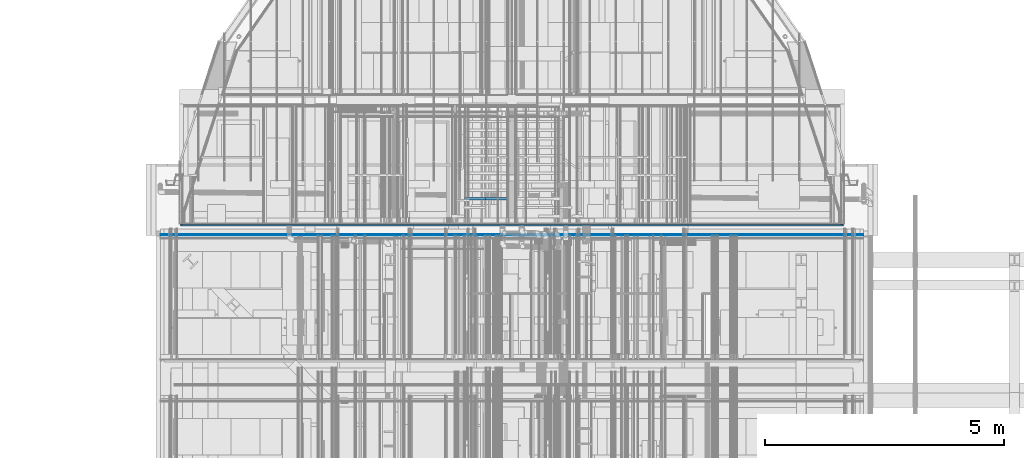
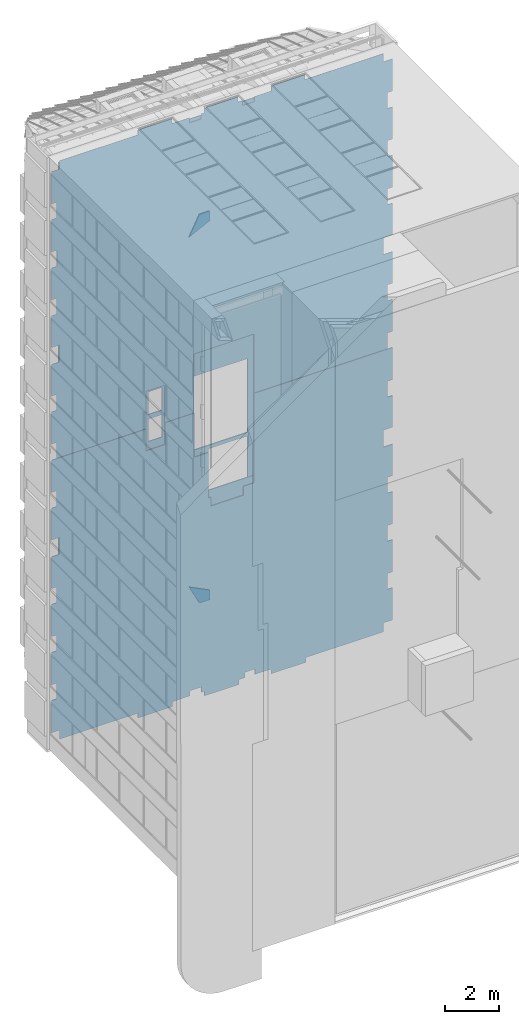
# One storey, part 266 of 583: 8 slabs.
"""IFC2X3 building model written with IfcOpenShell, lengths in metres."""

from ifc_helpers import new_model, entity, si_unit, converted_unit, derived_unit, money_unit, direction, frame, origin_with_axes, place, context, subcontext, project, spatial, faceted_brep, material, type_object, element, save


model = new_model("IFC2X3")

# Units and contexts
model_context = context("Model", 3, precision=1e-05, world=origin_with_axes(), true_north=direction((0.0, 1.0)))
body_context = subcontext(model_context, "Body", "Model", "MODEL_VIEW", scale=1.0)
ifc_project = project(units=[si_unit("LENGTHUNIT", "METRE"), si_unit("AREAUNIT", "SQUARE_METRE"), si_unit("VOLUMEUNIT", "CUBIC_METRE"), si_unit("ABSORBEDDOSEUNIT", "GRAY"), si_unit("AMOUNTOFSUBSTANCEUNIT", "MOLE"), si_unit("DOSEEQUIVALENTUNIT", "SIEVERT"), si_unit("ELECTRICCAPACITANCEUNIT", "FARAD"), si_unit("ELECTRICCHARGEUNIT", "COULOMB"), si_unit("ELECTRICCONDUCTANCEUNIT", "SIEMENS"), si_unit("ELECTRICCURRENTUNIT", "AMPERE"), si_unit("ELECTRICRESISTANCEUNIT", "OHM"), si_unit("ELECTRICVOLTAGEUNIT", "VOLT"), si_unit("ENERGYUNIT", "JOULE"), si_unit("FORCEUNIT", "NEWTON"), si_unit("FREQUENCYUNIT", "HERTZ"), si_unit("ILLUMINANCEUNIT", "LUX"), si_unit("INDUCTANCEUNIT", "HENRY"), si_unit("LUMINOUSFLUXUNIT", "LUMEN"), si_unit("LUMINOUSINTENSITYUNIT", "CANDELA"), si_unit("MAGNETICFLUXDENSITYUNIT", "TESLA"), si_unit("MAGNETICFLUXUNIT", "WEBER"), si_unit("MASSUNIT", "GRAM"), converted_unit("PLANEANGLEUNIT", "degree", entity("IfcReal", 0.0174532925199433), si_unit("PLANEANGLEUNIT", "RADIAN"), dimensions=[0, 0, 0, 0, 0, 0, 0]), si_unit("POWERUNIT", "WATT"), si_unit("PRESSUREUNIT", "PASCAL"), si_unit("RADIOACTIVITYUNIT", "BECQUEREL"), si_unit("SOLIDANGLEUNIT", "STERADIAN"), si_unit("THERMODYNAMICTEMPERATUREUNIT", "KELVIN"), si_unit("TIMEUNIT", "SECOND"), derived_unit("ACCELERATIONUNIT", [(si_unit("LENGTHUNIT", "METRE"), 1), (si_unit("TIMEUNIT", "SECOND"), -2)]), derived_unit("ANGULARVELOCITYUNIT", [(converted_unit("PLANEANGLEUNIT", "degree", entity("IfcReal", 0.0174532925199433), si_unit("PLANEANGLEUNIT", "RADIAN"), dimensions=[0, 0, 0, 0, 0, 0, 0]), 1), (si_unit("TIMEUNIT", "SECOND"), -1)]), derived_unit("CURVATUREUNIT", [(converted_unit("PLANEANGLEUNIT", "degree", entity("IfcReal", 0.0174532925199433), si_unit("PLANEANGLEUNIT", "RADIAN"), dimensions=[0, 0, 0, 0, 0, 0, 0]), 1), (si_unit("LENGTHUNIT", "METRE"), -1)]), derived_unit("DYNAMICVISCOSITYUNIT", [(si_unit("PRESSUREUNIT", "PASCAL"), 1), (si_unit("TIMEUNIT", "SECOND"), 1)]), derived_unit("HEATFLUXDENSITYUNIT", [(si_unit("POWERUNIT", "WATT"), 1), (si_unit("LENGTHUNIT", "METRE"), -2)]), derived_unit("HEATINGVALUEUNIT", [(si_unit("ENERGYUNIT", "JOULE"), 1), (si_unit("MASSUNIT", "GRAM"), -1)]), derived_unit("INTEGERCOUNTRATEUNIT", [(si_unit("TIMEUNIT", "SECOND"), -1)]), derived_unit("IONCONCENTRATIONUNIT", [(si_unit("MASSUNIT", "GRAM"), 1), (si_unit("VOLUMEUNIT", "CUBIC_METRE"), -1)]), derived_unit("ISOTHERMALMOISTURECAPACITYUNIT", [(si_unit("VOLUMEUNIT", "CUBIC_METRE"), 1), (si_unit("MASSUNIT", "GRAM"), -1)]), derived_unit("KINEMATICVISCOSITYUNIT", [(si_unit("AREAUNIT", "SQUARE_METRE"), 1), (si_unit("TIMEUNIT", "SECOND"), -1)]), derived_unit("LINEARFORCEUNIT", [(si_unit("FORCEUNIT", "NEWTON"), 1), (si_unit("LENGTHUNIT", "METRE"), -1)]), derived_unit("LINEARMOMENTUNIT", [(si_unit("FORCEUNIT", "NEWTON"), 1), (si_unit("LENGTHUNIT", "METRE"), -1)]), derived_unit("LINEARSTIFFNESSUNIT", [(si_unit("FORCEUNIT", "NEWTON"), 1), (si_unit("LENGTHUNIT", "METRE"), -1)]), derived_unit("LINEARVELOCITYUNIT", [(si_unit("LENGTHUNIT", "METRE"), 1), (si_unit("TIMEUNIT", "SECOND"), -1)]), derived_unit("LUMINOUSINTENSITYDISTRIBUTIONUNIT", [(si_unit("LUMINOUSINTENSITYUNIT", "CANDELA"), 1), (si_unit("LUMINOUSFLUXUNIT", "LUMEN"), -1)]), derived_unit("MASSDENSITYUNIT", [(si_unit("MASSUNIT", "GRAM"), 1), (si_unit("VOLUMEUNIT", "CUBIC_METRE"), -1)]), derived_unit("MASSFLOWRATEUNIT", [(si_unit("MASSUNIT", "GRAM"), 1), (si_unit("TIMEUNIT", "SECOND"), -1)]), derived_unit("MASSPERLENGTHUNIT", [(si_unit("MASSUNIT", "GRAM"), 1), (si_unit("LENGTHUNIT", "METRE"), -1)]), derived_unit("MODULUSOFELASTICITYUNIT", [(si_unit("FORCEUNIT", "NEWTON"), 1), (si_unit("AREAUNIT", "SQUARE_METRE"), -1)]), derived_unit("MODULUSOFLINEARSUBGRADEREACTIONUNIT", [(si_unit("FORCEUNIT", "NEWTON"), 1), (si_unit("LENGTHUNIT", "METRE"), -2)]), derived_unit("MODULUSOFROTATIONALSUBGRADEREACTIONUNIT", [(si_unit("FORCEUNIT", "NEWTON"), 1), (si_unit("LENGTHUNIT", "METRE"), 1)]), derived_unit("MODULUSOFSUBGRADEREACTIONUNIT", [(si_unit("FORCEUNIT", "NEWTON"), 1), (si_unit("VOLUMEUNIT", "CUBIC_METRE"), -1)]), derived_unit("MOISTUREDIFFUSIVITYUNIT", [(si_unit("VOLUMEUNIT", "CUBIC_METRE"), 1), (si_unit("TIMEUNIT", "SECOND"), -1)]), derived_unit("MOLECULARWEIGHTUNIT", [(si_unit("MASSUNIT", "GRAM"), 1), (si_unit("AMOUNTOFSUBSTANCEUNIT", "MOLE"), -1)]), derived_unit("PLANARFORCEUNIT", [(si_unit("FORCEUNIT", "NEWTON"), 1), (si_unit("LENGTHUNIT", "METRE"), -2)]), derived_unit("ROTATIONALFREQUENCYUNIT", [(si_unit("TIMEUNIT", "SECOND"), -1)]), derived_unit("ROTATIONALMASSUNIT", [(si_unit("MASSUNIT", "GRAM"), 1), (si_unit("LENGTHUNIT", "METRE"), 2)]), derived_unit("ROTATIONALSTIFFNESSUNIT", [(si_unit("FORCEUNIT", "NEWTON"), 1), (si_unit("LENGTHUNIT", "METRE"), 1), (converted_unit("PLANEANGLEUNIT", "degree", entity("IfcReal", 0.0174532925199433), si_unit("PLANEANGLEUNIT", "RADIAN"), dimensions=[0, 0, 0, 0, 0, 0, 0]), -1)]), derived_unit("SECTIONAREAINTEGRALUNIT", [(si_unit("LENGTHUNIT", "METRE"), 5)]), derived_unit("SECTIONMODULUSUNIT", [(si_unit("LENGTHUNIT", "METRE"), 3)]), derived_unit("SHEARMODULUSUNIT", [(si_unit("FORCEUNIT", "NEWTON"), 1), (si_unit("AREAUNIT", "SQUARE_METRE"), -1)]), derived_unit("SOUNDPOWERUNIT", [(si_unit("ENERGYUNIT", "JOULE"), 1), (si_unit("TIMEUNIT", "SECOND"), -1)]), derived_unit("SPECIFICHEATCAPACITYUNIT", [(si_unit("FORCEUNIT", "NEWTON"), 1), (si_unit("MASSUNIT", "GRAM"), -1), (si_unit("THERMODYNAMICTEMPERATUREUNIT", "KELVIN"), -1)]), derived_unit("TEMPERATUREGRADIENTUNIT", [(si_unit("THERMODYNAMICTEMPERATUREUNIT", "KELVIN"), 1), (si_unit("LENGTHUNIT", "METRE"), -1)]), derived_unit("THERMALADMITTANCEUNIT", [(si_unit("POWERUNIT", "WATT"), 1), (si_unit("AREAUNIT", "SQUARE_METRE"), -1), (si_unit("THERMODYNAMICTEMPERATUREUNIT", "KELVIN"), -1)]), derived_unit("THERMALCONDUCTANCEUNIT", [(si_unit("POWERUNIT", "WATT"), 1), (si_unit("LENGTHUNIT", "METRE"), -1), (si_unit("THERMODYNAMICTEMPERATUREUNIT", "KELVIN"), -1)]), derived_unit("THERMALEXPANSIONCOEFFICIENTUNIT", [(si_unit("THERMODYNAMICTEMPERATUREUNIT", "KELVIN"), -1)]), derived_unit("THERMALRESISTANCEUNIT", [(si_unit("AREAUNIT", "SQUARE_METRE"), 1), (si_unit("POWERUNIT", "WATT"), -1)]), derived_unit("THERMALTRANSMITTANCEUNIT", [(si_unit("POWERUNIT", "WATT"), 1), (si_unit("AREAUNIT", "SQUARE_METRE"), -1), (si_unit("THERMODYNAMICTEMPERATUREUNIT", "KELVIN"), -1)]), derived_unit("TORQUEUNIT", [(si_unit("FORCEUNIT", "NEWTON"), 1), (si_unit("LENGTHUNIT", "METRE"), 1)]), derived_unit("VAPORPERMEABILITYUNIT", [(si_unit("MASSUNIT", "GRAM"), 1), (si_unit("TIMEUNIT", "SECOND"), -1)]), derived_unit("VOLUMETRICFLOWRATEUNIT", [(si_unit("VOLUMEUNIT", "CUBIC_METRE"), 1), (si_unit("TIMEUNIT", "SECOND"), -1)]), derived_unit("WARPINGCONSTANTUNIT", [(si_unit("LENGTHUNIT", "METRE"), 6)]), derived_unit("WARPINGMOMENTUNIT", [(si_unit("FORCEUNIT", "NEWTON"), 1), (si_unit("LENGTHUNIT", "METRE"), 2)]), money_unit("GBP")], contexts=[model_context])

# Site, building, storey
site_placement = place(None, origin_with_axes())
site = spatial("IfcSite", under=ifc_project, at=site_placement, Name="Site", CompositionType="ELEMENT")
building_placement = place(site_placement, origin_with_axes())
building = spatial("IfcBuilding", under=site, at=building_placement, Name="Building01", CompositionType="ELEMENT")
storey_placement = place(building_placement, frame((0.0, 0.0, 20.78), z_axis=(0.0, 0.0, 1.0), x_axis=(1.0, 0.0, 0.0)))
storey = spatial("IfcBuildingStorey", under=building, at=storey_placement, Name="RL", CompositionType="ELEMENT", Elevation=20.78)

# Slabs
ifc_material_1 = material(Name="A_BSUK_CeilingSoffitFinishes_Suspended")
slab_type_1 = type_object("IfcSlabType", Name="A-FloorsSlabs A_BSUK_Slabs", PredefinedType="FLOOR")
placement = place(storey_placement, frame((0.0, 0.0, -20.78), z_axis=(0.0, 0.0, 1.0), x_axis=(1.0, 0.0, 0.0)))
element("IfcSlab", 1, at=placement, inside=storey, type_object=slab_type_1, material=ifc_material_1, Name="A-FloorsSlabs A_BSUK_Slabs", ObjectType="CompoundSlabLeaf", context=body_context, shape_type="Brep", body=[
    faceted_brep([(14.402, 14.723, 0.318), (14.402, 14.738, 0.318), (14.402, 14.738, 0.725), (14.402, 14.723, 0.725), (11.055, 14.723, 0.318), (11.055, 14.738, 0.318), (11.055, 14.723, 0.1), (11.055, 14.738, 0.1), (9.56218, 14.723, 0.1), (9.56218, 14.738, 0.1), (9.56218, 14.723, 0.318), (9.56218, 14.738, 0.318), (8.863, 14.723, 0.318), (8.863, 14.738, 0.318), (8.863, 14.723, 0.562178), (8.863, 14.738, 0.562178), (8.43567, 14.723, 0.562178), (8.43567, 14.738, 0.562178), (8.43567, 14.723, 0.318), (8.43567, 14.738, 0.318), (8.185, 14.723, 0.318), (8.185, 14.738, 0.318), (8.185, 14.723, 0.1), (8.185, 14.738, 0.1), (6.69218, 14.723, 0.1), (6.69218, 14.738, 0.1), (6.69218, 14.723, 0.318), (6.69218, 14.738, 0.318), (6.548, 14.723, 0.318), (6.548, 14.738, 0.318), (6.548, 14.723, 0.548), (6.548, 14.738, 0.548), (6.052, 14.723, 0.548), (6.052, 14.738, 0.548), (6.052, 14.723, 0.318), (6.052, 14.738, 0.318), (5.315, 14.723, 0.318), (5.315, 14.738, 0.318), (5.315, 14.723, 0.1), (5.315, 14.738, 0.1), (3.82218, 14.723, 0.1), (3.82218, 14.738, 0.1), (3.82218, 14.723, 0.318), (3.82218, 14.738, 0.318), (0.448, 14.723, 0.318), (0.448, 14.738, 0.318), (0.448, 14.723, 0.725), (0.448, 14.738, 0.725), (0.1, 14.723, 0.725), (0.1, 14.738, 0.725), (0.1, 14.723, 2.195), (0.1, 14.738, 2.195), (0.318, 14.723, 2.195), (0.318, 14.738, 2.195), (0.318, 14.723, 2.915), (0.318, 14.738, 2.915), (0.1, 14.723, 2.915), (0.1, 14.738, 2.915), (0.1, 14.723, 4.385), (0.1, 14.738, 4.385), (0.318, 14.723, 4.385), (0.318, 14.738, 4.385), (0.318, 14.723, 5.105), (0.318, 14.738, 5.105), (0.1, 14.723, 5.105), (0.1, 14.738, 5.105), (0.1, 14.723, 6.575), (0.1, 14.738, 6.575), (0.318, 14.723, 6.575), (0.318, 14.738, 6.575), (0.318, 14.723, 7.295), (0.318, 14.738, 7.295), (0.1, 14.723, 7.295), (0.1, 14.738, 7.295), (0.1, 14.723, 8.742), (0.1, 14.738, 8.742), (0.448, 14.723, 8.742), (0.448, 14.738, 8.742), (0.448, 14.723, 9.508), (0.448, 14.738, 9.508), (0.1, 14.723, 9.508), (0.1, 14.738, 9.508), (0.1, 14.723, 10.955), (0.1, 14.738, 10.955), (0.318, 14.723, 10.955), (0.318, 14.738, 10.955), (0.318, 14.723, 11.675), (0.318, 14.738, 11.675), (0.1, 14.723, 11.675), (0.1, 14.738, 11.675), (0.1, 14.723, 13.145), (0.1, 14.738, 13.145), (4.164428, 14.723, 13.145), (4.164428, 14.738, 13.145), (4.164428, 14.723, 12.15), (4.164428, 14.738, 12.15), (4.98, 14.723, 12.15), (4.98, 14.738, 12.15), (4.98, 14.723, 13.145), (4.98, 14.738, 13.145), (6.25, 14.723, 13.145), (6.25, 14.738, 13.145), (6.25, 14.723, 11.13), (6.25, 14.738, 11.13), (6.85, 14.723, 11.13), (6.85, 14.738, 11.13), (6.85, 14.723, 9.06), (6.85, 14.738, 9.06), (6.968405, 14.723, 9.06), (6.968405, 14.738, 9.06), (6.968405, 14.723, 8.658), (6.968405, 14.738, 8.658), (8.372405, 14.723, 8.658), (8.372405, 14.738, 8.658), (8.372405, 14.723, 9.06), (8.372405, 14.738, 9.06), (8.82, 14.723, 9.06), (8.82, 14.738, 9.06), (8.82, 14.723, 13.145), (8.82, 14.738, 13.145), (14.8, 14.723, 13.145), (14.8, 14.738, 13.145), (14.8, 14.723, 11.675), (14.8, 14.738, 11.675), (14.582, 14.723, 11.675), (14.582, 14.738, 11.675), (14.582, 14.723, 10.955), (14.582, 14.738, 10.955), (14.8, 14.723, 10.955), (14.8, 14.738, 10.955), (14.8, 14.723, 9.508), (14.8, 14.738, 9.508), (14.402, 14.723, 9.508), (14.402, 14.738, 9.508), (14.402, 14.723, 8.742), (14.402, 14.738, 8.742), (14.8, 14.723, 8.742), (14.8, 14.738, 8.742), (14.8, 14.723, 7.295), (14.8, 14.738, 7.295), (14.582, 14.723, 7.295), (14.582, 14.738, 7.295), (14.582, 14.723, 6.574876), (14.582, 14.738, 6.574876), (14.8, 14.723, 6.574876), (14.8, 14.738, 6.574876), (14.8, 14.723, 5.105), (14.8, 14.738, 5.105), (14.582, 14.723, 5.105), (14.582, 14.738, 5.105), (14.582, 14.723, 4.385), (14.582, 14.738, 4.385), (14.8, 14.723, 4.385), (14.8, 14.738, 4.385), (14.8, 14.723, 2.915), (14.8, 14.738, 2.915), (14.582, 14.723, 2.915), (14.582, 14.738, 2.915), (14.582, 14.723, 2.195), (14.582, 14.738, 2.195), (14.8, 14.723, 2.195), (14.8, 14.738, 2.195), (14.8, 14.723, 0.725), (14.8, 14.738, 0.725)], [[[0, 1, 2, 3]], [[4, 5, 1, 0]], [[6, 7, 5, 4]], [[8, 9, 7, 6]], [[10, 11, 9, 8]], [[12, 13, 11, 10]], [[14, 15, 13, 12]], [[16, 17, 15, 14]], [[18, 19, 17, 16]], [[20, 21, 19, 18]], [[22, 23, 21, 20]], [[24, 25, 23, 22]], [[26, 27, 25, 24]], [[28, 29, 27, 26]], [[30, 31, 29, 28]], [[32, 33, 31, 30]], [[34, 35, 33, 32]], [[36, 37, 35, 34]], [[38, 39, 37, 36]], [[40, 41, 39, 38]], [[42, 43, 41, 40]], [[44, 45, 43, 42]], [[46, 47, 45, 44]], [[48, 49, 47, 46]], [[50, 51, 49, 48]], [[52, 53, 51, 50]], [[54, 55, 53, 52]], [[56, 57, 55, 54]], [[58, 59, 57, 56]], [[60, 61, 59, 58]], [[62, 63, 61, 60]], [[64, 65, 63, 62]], [[66, 67, 65, 64]], [[68, 69, 67, 66]], [[70, 71, 69, 68]], [[72, 73, 71, 70]], [[74, 75, 73, 72]], [[76, 77, 75, 74]], [[78, 79, 77, 76]], [[80, 81, 79, 78]], [[82, 83, 81, 80]], [[84, 85, 83, 82]], [[86, 87, 85, 84]], [[88, 89, 87, 86]], [[90, 91, 89, 88]], [[92, 93, 91, 90]], [[94, 95, 93, 92]], [[96, 97, 95, 94]], [[98, 99, 97, 96]], [[100, 101, 99, 98]], [[102, 103, 101, 100]], [[104, 105, 103, 102]], [[106, 107, 105, 104]], [[108, 109, 107, 106]], [[110, 111, 109, 108]], [[112, 113, 111, 110]], [[114, 115, 113, 112]], [[116, 117, 115, 114]], [[118, 119, 117, 116]], [[120, 121, 119, 118]], [[122, 123, 121, 120]], [[124, 125, 123, 122]], [[126, 127, 125, 124]], [[128, 129, 127, 126]], [[130, 131, 129, 128]], [[132, 133, 131, 130]], [[134, 135, 133, 132]], [[136, 137, 135, 134]], [[138, 139, 137, 136]], [[140, 141, 139, 138]], [[142, 143, 141, 140]], [[144, 145, 143, 142]], [[146, 147, 145, 144]], [[148, 149, 147, 146]], [[150, 151, 149, 148]], [[152, 153, 151, 150]], [[154, 155, 153, 152]], [[156, 157, 155, 154]], [[158, 159, 157, 156]], [[160, 161, 159, 158]], [[162, 163, 161, 160]], [[3, 2, 163, 162]], [[1, 5, 7, 9, 11, 13, 15, 17, 19, 21, 23, 25, 27, 29, 31, 33, 35, 37, 39, 41, 43, 45, 47, 49, 51, 53, 55, 57, 59, 61, 63, 65, 67, 69, 71, 73, 75, 77, 79, 81, 83, 85, 87, 89, 91, 93, 95, 97, 99, 101, 103, 105, 107, 109, 111, 113, 115, 117, 119, 121, 123, 125, 127, 129, 131, 133, 135, 137, 139, 141, 143, 145, 147, 149, 151, 153, 155, 157, 159, 161, 163, 2]], [[3, 162, 160, 158, 156, 154, 152, 150, 148, 146, 144, 142, 140, 138, 136, 134, 132, 130, 128, 126, 124, 122, 120, 118, 116, 114, 112, 110, 108, 106, 104, 102, 100, 98, 96, 94, 92, 90, 88, 86, 84, 82, 80, 78, 76, 74, 72, 70, 68, 66, 64, 62, 60, 58, 56, 54, 52, 50, 48, 46, 44, 42, 40, 38, 36, 34, 32, 30, 28, 26, 24, 22, 20, 18, 16, 14, 12, 10, 8, 6, 4, 0]]]),
])
element("IfcSlab", 2, at=placement, inside=storey, type_object=slab_type_1, material=ifc_material_1, Name="A-FloorsSlabs A_BSUK_Slabs", ObjectType="CompoundSlabLeaf", context=body_context, shape_type="Brep", body=[
    faceted_brep([(14.402, 14.738, 26.662), (14.402, 14.753, 26.662), (11.03218, 14.753, 26.662), (11.03218, 14.738, 26.662), (14.402, 14.738, 26.285), (14.402, 14.753, 26.285), (14.8, 14.738, 26.285), (14.8, 14.753, 26.285), (14.8, 14.738, 24.815), (14.8, 14.753, 24.815), (14.582, 14.738, 24.815), (14.582, 14.753, 24.815), (14.582, 14.738, 24.095), (14.582, 14.753, 24.095), (14.8, 14.738, 24.095), (14.8, 14.753, 24.095), (14.8, 14.738, 22.625), (14.8, 14.753, 22.625), (14.582, 14.738, 22.625), (14.582, 14.753, 22.625), (14.582, 14.738, 21.905), (14.582, 14.753, 21.905), (14.8, 14.738, 21.905), (14.8, 14.753, 21.905), (14.8, 14.738, 20.435), (14.8, 14.753, 20.435), (14.582, 14.738, 20.435), (14.582, 14.753, 20.435), (14.582, 14.738, 19.715), (14.582, 14.753, 19.715), (14.8, 14.738, 19.715), (14.8, 14.753, 19.715), (14.8, 14.738, 18.268), (14.8, 14.753, 18.268), (14.402, 14.738, 18.268), (14.402, 14.753, 18.268), (14.402, 14.738, 17.502), (14.402, 14.753, 17.502), (14.8, 14.738, 17.502), (14.8, 14.753, 17.502), (14.8, 14.738, 16.055), (14.8, 14.753, 16.055), (14.582, 14.738, 16.055), (14.582, 14.753, 16.055), (14.582, 14.738, 15.335), (14.582, 14.753, 15.335), (14.8, 14.738, 15.335), (14.8, 14.753, 15.335), (14.8, 14.738, 13.865), (14.8, 14.753, 13.865), (14.582, 14.738, 13.865), (14.582, 14.753, 13.865), (14.582, 14.738, 13.145), (14.582, 14.753, 13.145), (8.82, 14.738, 13.145), (8.82, 14.753, 13.145), (8.82, 14.738, 15.83), (8.82, 14.753, 15.83), (6.25, 14.738, 15.83), (6.25, 14.753, 15.83), (6.25, 14.738, 13.145), (6.25, 14.753, 13.145), (4.98, 14.738, 13.145), (4.98, 14.753, 13.145), (4.98, 14.738, 14.85), (4.98, 14.753, 14.85), (4.164428, 14.738, 14.85), (4.164428, 14.753, 14.85), (4.164428, 14.738, 13.145), (4.164428, 14.753, 13.145), (0.318, 14.738, 13.145), (0.318, 14.753, 13.145), (0.318, 14.738, 13.865), (0.318, 14.753, 13.865), (0.1, 14.738, 13.865), (0.1, 14.753, 13.865), (0.1, 14.738, 15.335), (0.1, 14.753, 15.335), (0.318, 14.738, 15.335), (0.318, 14.753, 15.335), (0.318, 14.738, 16.055), (0.318, 14.753, 16.055), (0.1, 14.738, 16.055), (0.1, 14.753, 16.055), (0.1, 14.738, 17.502), (0.1, 14.753, 17.502), (0.448, 14.738, 17.502), (0.448, 14.753, 17.502), (0.448, 14.738, 18.268), (0.448, 14.753, 18.268), (0.1, 14.738, 18.268), (0.1, 14.753, 18.268), (0.1, 14.738, 19.715), (0.1, 14.753, 19.715), (0.318, 14.738, 19.715), (0.318, 14.753, 19.715), (0.318, 14.738, 20.435), (0.318, 14.753, 20.435), (0.1, 14.738, 20.435), (0.1, 14.753, 20.435), (0.1, 14.738, 21.89), (0.1, 14.753, 21.89), (0.333, 14.738, 21.89), (0.333, 14.753, 21.89), (0.333, 14.738, 22.625), (0.333, 14.753, 22.625), (0.1, 14.738, 22.625), (0.1, 14.753, 22.625), (0.1, 14.738, 24.095), (0.1, 14.753, 24.095), (0.318, 14.738, 24.095), (0.318, 14.753, 24.095), (0.318, 14.738, 24.815), (0.318, 14.753, 24.815), (0.1, 14.738, 24.815), (0.1, 14.753, 24.815), (0.1, 14.738, 26.285), (0.1, 14.753, 26.285), (0.448, 14.738, 26.285), (0.448, 14.753, 26.285), (0.448, 14.738, 26.662), (0.448, 14.753, 26.662), (3.82218, 14.738, 26.662), (3.82218, 14.753, 26.662), (3.82218, 14.738, 26.88), (3.82218, 14.753, 26.88), (5.29218, 14.738, 26.88), (5.29218, 14.753, 26.88), (5.29218, 14.738, 26.662), (5.29218, 14.753, 26.662), (6.052, 14.738, 26.662), (6.052, 14.753, 26.662), (6.052, 14.738, 26.432), (6.052, 14.753, 26.432), (6.548, 14.738, 26.432), (6.548, 14.753, 26.432), (6.548, 14.738, 26.662), (6.548, 14.753, 26.662), (6.682326, 14.738, 26.662), (6.682326, 14.753, 26.662), (6.682326, 14.738, 26.88), (6.682326, 14.753, 26.88), (8.137326, 14.738, 26.88), (8.137326, 14.753, 26.88), (8.137326, 14.738, 26.646178), (8.137326, 14.753, 26.646178), (8.334548, 14.738, 26.646178), (8.334548, 14.753, 26.646178), (8.334548, 14.738, 26.417), (8.334548, 14.753, 26.417), (8.848, 14.738, 26.417), (8.848, 14.753, 26.417), (8.848, 14.738, 26.646178), (8.848, 14.753, 26.646178), (9.57718, 14.738, 26.646178), (9.57718, 14.753, 26.646178), (9.57718, 14.738, 26.88), (9.57718, 14.753, 26.88), (11.03218, 14.738, 26.88), (11.03218, 14.753, 26.88)], [[[0, 1, 2, 3]], [[4, 5, 1, 0]], [[6, 7, 5, 4]], [[8, 9, 7, 6]], [[10, 11, 9, 8]], [[12, 13, 11, 10]], [[14, 15, 13, 12]], [[16, 17, 15, 14]], [[18, 19, 17, 16]], [[20, 21, 19, 18]], [[22, 23, 21, 20]], [[24, 25, 23, 22]], [[26, 27, 25, 24]], [[28, 29, 27, 26]], [[30, 31, 29, 28]], [[32, 33, 31, 30]], [[34, 35, 33, 32]], [[36, 37, 35, 34]], [[38, 39, 37, 36]], [[40, 41, 39, 38]], [[42, 43, 41, 40]], [[44, 45, 43, 42]], [[46, 47, 45, 44]], [[48, 49, 47, 46]], [[50, 51, 49, 48]], [[52, 53, 51, 50]], [[54, 55, 53, 52]], [[56, 57, 55, 54]], [[58, 59, 57, 56]], [[60, 61, 59, 58]], [[62, 63, 61, 60]], [[64, 65, 63, 62]], [[66, 67, 65, 64]], [[68, 69, 67, 66]], [[70, 71, 69, 68]], [[72, 73, 71, 70]], [[74, 75, 73, 72]], [[76, 77, 75, 74]], [[78, 79, 77, 76]], [[80, 81, 79, 78]], [[82, 83, 81, 80]], [[84, 85, 83, 82]], [[86, 87, 85, 84]], [[88, 89, 87, 86]], [[90, 91, 89, 88]], [[92, 93, 91, 90]], [[94, 95, 93, 92]], [[96, 97, 95, 94]], [[98, 99, 97, 96]], [[100, 101, 99, 98]], [[102, 103, 101, 100]], [[104, 105, 103, 102]], [[106, 107, 105, 104]], [[108, 109, 107, 106]], [[110, 111, 109, 108]], [[112, 113, 111, 110]], [[114, 115, 113, 112]], [[116, 117, 115, 114]], [[118, 119, 117, 116]], [[120, 121, 119, 118]], [[122, 123, 121, 120]], [[124, 125, 123, 122]], [[126, 127, 125, 124]], [[128, 129, 127, 126]], [[130, 131, 129, 128]], [[132, 133, 131, 130]], [[134, 135, 133, 132]], [[136, 137, 135, 134]], [[138, 139, 137, 136]], [[140, 141, 139, 138]], [[142, 143, 141, 140]], [[144, 145, 143, 142]], [[146, 147, 145, 144]], [[148, 149, 147, 146]], [[150, 151, 149, 148]], [[152, 153, 151, 150]], [[154, 155, 153, 152]], [[156, 157, 155, 154]], [[158, 159, 157, 156]], [[3, 2, 159, 158]], [[1, 5, 7, 9, 11, 13, 15, 17, 19, 21, 23, 25, 27, 29, 31, 33, 35, 37, 39, 41, 43, 45, 47, 49, 51, 53, 55, 57, 59, 61, 63, 65, 67, 69, 71, 73, 75, 77, 79, 81, 83, 85, 87, 89, 91, 93, 95, 97, 99, 101, 103, 105, 107, 109, 111, 113, 115, 117, 119, 121, 123, 125, 127, 129, 131, 133, 135, 137, 139, 141, 143, 145, 147, 149, 151, 153, 155, 157, 159, 2]], [[3, 158, 156, 154, 152, 150, 148, 146, 144, 142, 140, 138, 136, 134, 132, 130, 128, 126, 124, 122, 120, 118, 116, 114, 112, 110, 108, 106, 104, 102, 100, 98, 96, 94, 92, 90, 88, 86, 84, 82, 80, 78, 76, 74, 72, 70, 68, 66, 64, 62, 60, 58, 56, 54, 52, 50, 48, 46, 44, 42, 40, 38, 36, 34, 32, 30, 28, 26, 24, 22, 20, 18, 16, 14, 12, 10, 8, 6, 4, 0]]]),
])
element("IfcSlab", 3, at=placement, inside=storey, type_object=slab_type_1, material=ifc_material_1, Name="A-FloorsSlabs A_BSUK_Slabs", ObjectType="CompoundSlabLeaf", context=body_context, shape_type="Brep", body=[
    faceted_brep([(14.402, 14.738, 0.318), (14.402, 14.753, 0.318), (14.402, 14.753, 0.725), (14.402, 14.738, 0.725), (11.055, 14.738, 0.318), (11.055, 14.753, 0.318), (11.055, 14.738, 0.1), (11.055, 14.753, 0.1), (9.56218, 14.738, 0.1), (9.56218, 14.753, 0.1), (9.56218, 14.738, 0.318), (9.56218, 14.753, 0.318), (8.863, 14.738, 0.318), (8.863, 14.753, 0.318), (8.863, 14.738, 0.562178), (8.863, 14.753, 0.562178), (8.43567, 14.738, 0.562178), (8.43567, 14.753, 0.562178), (8.43567, 14.738, 0.318), (8.43567, 14.753, 0.318), (8.185, 14.738, 0.318), (8.185, 14.753, 0.318), (8.185, 14.738, 0.1), (8.185, 14.753, 0.1), (6.69218, 14.738, 0.1), (6.69218, 14.753, 0.1), (6.69218, 14.738, 0.318), (6.69218, 14.753, 0.318), (6.548, 14.738, 0.318), (6.548, 14.753, 0.318), (6.548, 14.738, 0.548), (6.548, 14.753, 0.548), (6.052, 14.738, 0.548), (6.052, 14.753, 0.548), (6.052, 14.738, 0.318), (6.052, 14.753, 0.318), (5.315, 14.738, 0.318), (5.315, 14.753, 0.318), (5.315, 14.738, 0.1), (5.315, 14.753, 0.1), (3.82218, 14.738, 0.1), (3.82218, 14.753, 0.1), (3.82218, 14.738, 0.318), (3.82218, 14.753, 0.318), (0.448, 14.738, 0.318), (0.448, 14.753, 0.318), (0.448, 14.738, 0.725), (0.448, 14.753, 0.725), (0.1, 14.738, 0.725), (0.1, 14.753, 0.725), (0.1, 14.738, 2.195), (0.1, 14.753, 2.195), (0.318, 14.738, 2.195), (0.318, 14.753, 2.195), (0.318, 14.738, 2.915), (0.318, 14.753, 2.915), (0.1, 14.738, 2.915), (0.1, 14.753, 2.915), (0.1, 14.738, 4.385), (0.1, 14.753, 4.385), (0.318, 14.738, 4.385), (0.318, 14.753, 4.385), (0.318, 14.738, 5.105), (0.318, 14.753, 5.105), (0.1, 14.738, 5.105), (0.1, 14.753, 5.105), (0.1, 14.738, 6.575), (0.1, 14.753, 6.575), (0.318, 14.738, 6.575), (0.318, 14.753, 6.575), (0.318, 14.738, 7.295), (0.318, 14.753, 7.295), (0.1, 14.738, 7.295), (0.1, 14.753, 7.295), (0.1, 14.738, 8.742), (0.1, 14.753, 8.742), (0.448, 14.738, 8.742), (0.448, 14.753, 8.742), (0.448, 14.738, 9.508), (0.448, 14.753, 9.508), (0.1, 14.738, 9.508), (0.1, 14.753, 9.508), (0.1, 14.738, 10.955), (0.1, 14.753, 10.955), (0.318, 14.738, 10.955), (0.318, 14.753, 10.955), (0.318, 14.738, 11.675), (0.318, 14.753, 11.675), (0.1, 14.738, 11.675), (0.1, 14.753, 11.675), (0.1, 14.738, 13.145), (0.1, 14.753, 13.145), (4.164428, 14.738, 13.145), (4.164428, 14.753, 13.145), (4.164428, 14.738, 12.15), (4.164428, 14.753, 12.15), (4.98, 14.738, 12.15), (4.98, 14.753, 12.15), (4.98, 14.738, 13.145), (4.98, 14.753, 13.145), (6.25, 14.738, 13.145), (6.25, 14.753, 13.145), (6.25, 14.738, 11.13), (6.25, 14.753, 11.13), (6.85, 14.738, 11.13), (6.85, 14.753, 11.13), (6.85, 14.738, 9.06), (6.85, 14.753, 9.06), (6.968405, 14.738, 9.06), (6.968405, 14.753, 9.06), (6.968405, 14.738, 8.658), (6.968405, 14.753, 8.658), (8.372405, 14.738, 8.658), (8.372405, 14.753, 8.658), (8.372405, 14.738, 9.06), (8.372405, 14.753, 9.06), (8.82, 14.738, 9.06), (8.82, 14.753, 9.06), (8.82, 14.738, 13.145), (8.82, 14.753, 13.145), (14.8, 14.738, 13.145), (14.8, 14.753, 13.145), (14.8, 14.738, 11.675), (14.8, 14.753, 11.675), (14.582, 14.738, 11.675), (14.582, 14.753, 11.675), (14.582, 14.738, 10.955), (14.582, 14.753, 10.955), (14.8, 14.738, 10.955), (14.8, 14.753, 10.955), (14.8, 14.738, 9.508), (14.8, 14.753, 9.508), (14.402, 14.738, 9.508), (14.402, 14.753, 9.508), (14.402, 14.738, 8.742), (14.402, 14.753, 8.742), (14.8, 14.738, 8.742), (14.8, 14.753, 8.742), (14.8, 14.738, 7.295), (14.8, 14.753, 7.295), (14.582, 14.738, 7.295), (14.582, 14.753, 7.295), (14.582, 14.738, 6.574876), (14.582, 14.753, 6.574876), (14.8, 14.738, 6.574876), (14.8, 14.753, 6.574876), (14.8, 14.738, 5.105), (14.8, 14.753, 5.105), (14.582, 14.738, 5.105), (14.582, 14.753, 5.105), (14.582, 14.738, 4.385), (14.582, 14.753, 4.385), (14.8, 14.738, 4.385), (14.8, 14.753, 4.385), (14.8, 14.738, 2.915), (14.8, 14.753, 2.915), (14.582, 14.738, 2.915), (14.582, 14.753, 2.915), (14.582, 14.738, 2.195), (14.582, 14.753, 2.195), (14.8, 14.738, 2.195), (14.8, 14.753, 2.195), (14.8, 14.738, 0.725), (14.8, 14.753, 0.725)], [[[0, 1, 2, 3]], [[4, 5, 1, 0]], [[6, 7, 5, 4]], [[8, 9, 7, 6]], [[10, 11, 9, 8]], [[12, 13, 11, 10]], [[14, 15, 13, 12]], [[16, 17, 15, 14]], [[18, 19, 17, 16]], [[20, 21, 19, 18]], [[22, 23, 21, 20]], [[24, 25, 23, 22]], [[26, 27, 25, 24]], [[28, 29, 27, 26]], [[30, 31, 29, 28]], [[32, 33, 31, 30]], [[34, 35, 33, 32]], [[36, 37, 35, 34]], [[38, 39, 37, 36]], [[40, 41, 39, 38]], [[42, 43, 41, 40]], [[44, 45, 43, 42]], [[46, 47, 45, 44]], [[48, 49, 47, 46]], [[50, 51, 49, 48]], [[52, 53, 51, 50]], [[54, 55, 53, 52]], [[56, 57, 55, 54]], [[58, 59, 57, 56]], [[60, 61, 59, 58]], [[62, 63, 61, 60]], [[64, 65, 63, 62]], [[66, 67, 65, 64]], [[68, 69, 67, 66]], [[70, 71, 69, 68]], [[72, 73, 71, 70]], [[74, 75, 73, 72]], [[76, 77, 75, 74]], [[78, 79, 77, 76]], [[80, 81, 79, 78]], [[82, 83, 81, 80]], [[84, 85, 83, 82]], [[86, 87, 85, 84]], [[88, 89, 87, 86]], [[90, 91, 89, 88]], [[92, 93, 91, 90]], [[94, 95, 93, 92]], [[96, 97, 95, 94]], [[98, 99, 97, 96]], [[100, 101, 99, 98]], [[102, 103, 101, 100]], [[104, 105, 103, 102]], [[106, 107, 105, 104]], [[108, 109, 107, 106]], [[110, 111, 109, 108]], [[112, 113, 111, 110]], [[114, 115, 113, 112]], [[116, 117, 115, 114]], [[118, 119, 117, 116]], [[120, 121, 119, 118]], [[122, 123, 121, 120]], [[124, 125, 123, 122]], [[126, 127, 125, 124]], [[128, 129, 127, 126]], [[130, 131, 129, 128]], [[132, 133, 131, 130]], [[134, 135, 133, 132]], [[136, 137, 135, 134]], [[138, 139, 137, 136]], [[140, 141, 139, 138]], [[142, 143, 141, 140]], [[144, 145, 143, 142]], [[146, 147, 145, 144]], [[148, 149, 147, 146]], [[150, 151, 149, 148]], [[152, 153, 151, 150]], [[154, 155, 153, 152]], [[156, 157, 155, 154]], [[158, 159, 157, 156]], [[160, 161, 159, 158]], [[162, 163, 161, 160]], [[3, 2, 163, 162]], [[1, 5, 7, 9, 11, 13, 15, 17, 19, 21, 23, 25, 27, 29, 31, 33, 35, 37, 39, 41, 43, 45, 47, 49, 51, 53, 55, 57, 59, 61, 63, 65, 67, 69, 71, 73, 75, 77, 79, 81, 83, 85, 87, 89, 91, 93, 95, 97, 99, 101, 103, 105, 107, 109, 111, 113, 115, 117, 119, 121, 123, 125, 127, 129, 131, 133, 135, 137, 139, 141, 143, 145, 147, 149, 151, 153, 155, 157, 159, 161, 163, 2]], [[3, 162, 160, 158, 156, 154, 152, 150, 148, 146, 144, 142, 140, 138, 136, 134, 132, 130, 128, 126, 124, 122, 120, 118, 116, 114, 112, 110, 108, 106, 104, 102, 100, 98, 96, 94, 92, 90, 88, 86, 84, 82, 80, 78, 76, 74, 72, 70, 68, 66, 64, 62, 60, 58, 56, 54, 52, 50, 48, 46, 44, 42, 40, 38, 36, 34, 32, 30, 28, 26, 24, 22, 20, 18, 16, 14, 12, 10, 8, 6, 4, 0]]]),
])
ifc_material_2 = material(Name="A_BSUK_InternalFinishes_FloorScreed")
element("IfcSlab", 4, at=placement, inside=storey, type_object=slab_type_1, material=ifc_material_2, Name="A-FloorsSlabs A_BSUK_Slabs", ObjectType="CompoundSlabLeaf", context=body_context, shape_type="Brep", body=[
    faceted_brep([(14.38, 14.93, 0.57), (14.38, 14.965, 0.57), (14.38, 14.965, 9.25), (14.38, 14.93, 9.25), (0.52, 14.93, 0.57), (0.52, 14.965, 0.57), (0.52, 14.93, 9.25), (0.52, 14.965, 9.25)], [[[0, 1, 2, 3]], [[4, 5, 1, 0]], [[6, 7, 5, 4]], [[3, 2, 7, 6]], [[1, 5, 7, 2]], [[3, 6, 4, 0]]]),
])
element("IfcSlab", 5, at=placement, inside=storey, type_object=slab_type_1, material=ifc_material_2, Name="A-FloorsSlabs A_BSUK_Slabs", ObjectType="CompoundSlabLeaf", context=body_context, shape_type="Brep", body=[
    faceted_brep([(8.65, 14.965, 11.13), (6.98, 14.965, 11.13), (6.98, 14.965, 9.25), (0.52, 14.965, 9.25), (0.52, 14.965, 17.73), (14.38, 14.965, 17.73), (14.38, 14.965, 9.25), (8.65, 14.965, 9.25), (4.973943, 14.965, 14.625), (4.389428, 14.965, 14.625), (4.389428, 14.965, 13.6), (4.973943, 14.965, 13.6), (4.98, 14.965, 13.4), (4.389428, 14.965, 13.4), (4.389428, 14.965, 12.375), (4.98, 14.965, 12.375), (8.65, 14.965, 14.653574), (6.35, 14.965, 14.653574), (6.35, 14.965, 11.3), (8.65, 14.965, 11.3), (8.65, 14.93, 11.13), (8.65, 14.93, 9.25), (14.38, 14.93, 9.25), (14.38, 14.93, 17.73), (0.52, 14.93, 17.73), (0.52, 14.93, 9.25), (6.98, 14.93, 9.25), (6.98, 14.93, 11.13), (4.98, 14.93, 13.4), (4.98, 14.93, 12.375), (4.389428, 14.93, 12.375), (4.389428, 14.93, 13.4), (8.65, 14.93, 14.653574), (8.65, 14.93, 11.3), (6.35, 14.93, 11.3), (6.35, 14.93, 14.653574), (4.973943, 14.93, 14.625), (4.973943, 14.93, 13.6), (4.389428, 14.93, 13.6), (4.389428, 14.93, 14.625)], [[[0, 1, 2, 3, 4, 5, 6, 7], [8, 9, 10, 11], [12, 13, 14, 15], [16, 17, 18, 19]], [[20, 21, 22, 23, 24, 25, 26, 27], [28, 29, 30, 31], [32, 33, 34, 35], [36, 37, 38, 39]], [[21, 7, 6, 22]], [[2, 26, 25, 3]], [[22, 6, 5, 23]], [[24, 4, 3, 25]], [[23, 5, 4, 24]], [[11, 37, 36, 8]], [[8, 36, 39, 9]], [[9, 39, 38, 10]], [[10, 38, 37, 11]], [[15, 29, 28, 12]], [[12, 28, 31, 13]], [[13, 31, 30, 14]], [[14, 30, 29, 15]], [[19, 33, 32, 16]], [[16, 32, 35, 17]], [[17, 35, 34, 18]], [[18, 34, 33, 19]], [[0, 20, 27, 1]], [[7, 21, 20, 0]], [[1, 27, 26, 2]]]),
])
ifc_material_3 = material(Name="A_BSUK_Slabs")
element("IfcSlab", 6, at=placement, inside=storey, type_object=slab_type_1, material=ifc_material_3, Name="A-FloorsSlabs A_BSUK_Slabs", ObjectType="CompoundSlabLeaf", context=body_context, shape_type="Brep", body=[
    faceted_brep([(7.349939, 15.47, 4.245111), (7.349939, 15.52, 4.245111), (6.449939, 15.52, 4.695111), (6.449939, 15.47, 4.695111), (7.349939, 15.47, 3.795111), (7.349939, 15.52, 3.795111), (6.899939, 15.47, 3.795111), (6.899939, 15.52, 3.795111)], [[[0, 1, 2, 3]], [[4, 5, 1, 0]], [[6, 7, 5, 4]], [[3, 2, 7, 6]], [[1, 5, 7, 2]], [[3, 6, 4, 0]]]),
])
element("IfcSlab", 7, at=placement, inside=storey, type_object=slab_type_1, material=ifc_material_3, Name="A-FloorsSlabs A_BSUK_Slabs", ObjectType="CompoundSlabLeaf", context=body_context, shape_type="Brep", body=[
    faceted_brep([(6.449939, 15.47, 20.61844), (6.449939, 15.52, 20.61844), (7.349939, 15.52, 21.06844), (7.349939, 15.47, 21.06844), (6.899939, 15.47, 21.51844), (6.899939, 15.52, 21.51844), (7.349939, 15.47, 21.51844), (7.349939, 15.52, 21.51844)], [[[0, 1, 2, 3]], [[4, 5, 1, 0]], [[6, 7, 5, 4]], [[3, 2, 7, 6]], [[1, 5, 7, 2]], [[3, 6, 4, 0]]]),
])
slab_type_2 = type_object("IfcSlabType", Name="A-FloorsSlabs A_BSUK_InternalFinishes_FloorScreed", PredefinedType="FLOOR")
element("IfcSlab", 8, at=placement, inside=storey, type_object=slab_type_2, material=ifc_material_2, Name="A-FloorsSlabs A_BSUK_InternalFinishes_FloorScreed", ObjectType="CompoundSlabLeaf", context=body_context, shape_type="Brep", body=[
    faceted_brep([(14.38, 14.93, 17.73), (14.38, 14.965, 17.73), (14.38, 14.965, 26.445659), (14.38, 14.93, 26.445659), (0.52, 14.93, 17.73), (0.52, 14.965, 17.73), (0.52, 14.93, 26.445659), (0.52, 14.965, 26.445659)], [[[0, 1, 2, 3]], [[4, 5, 1, 0]], [[6, 7, 5, 4]], [[3, 2, 7, 6]], [[1, 5, 7, 2]], [[3, 6, 4, 0]]]),
])

save(model, "model.ifc")
